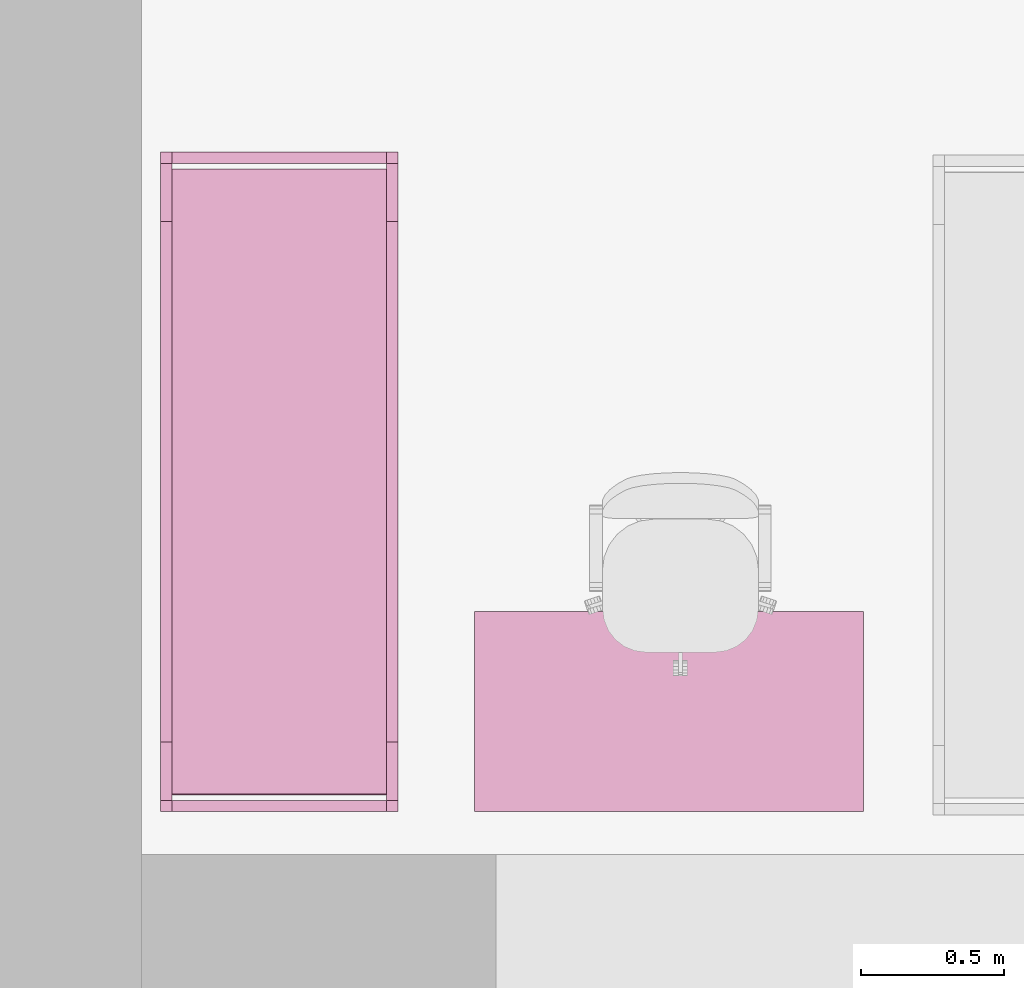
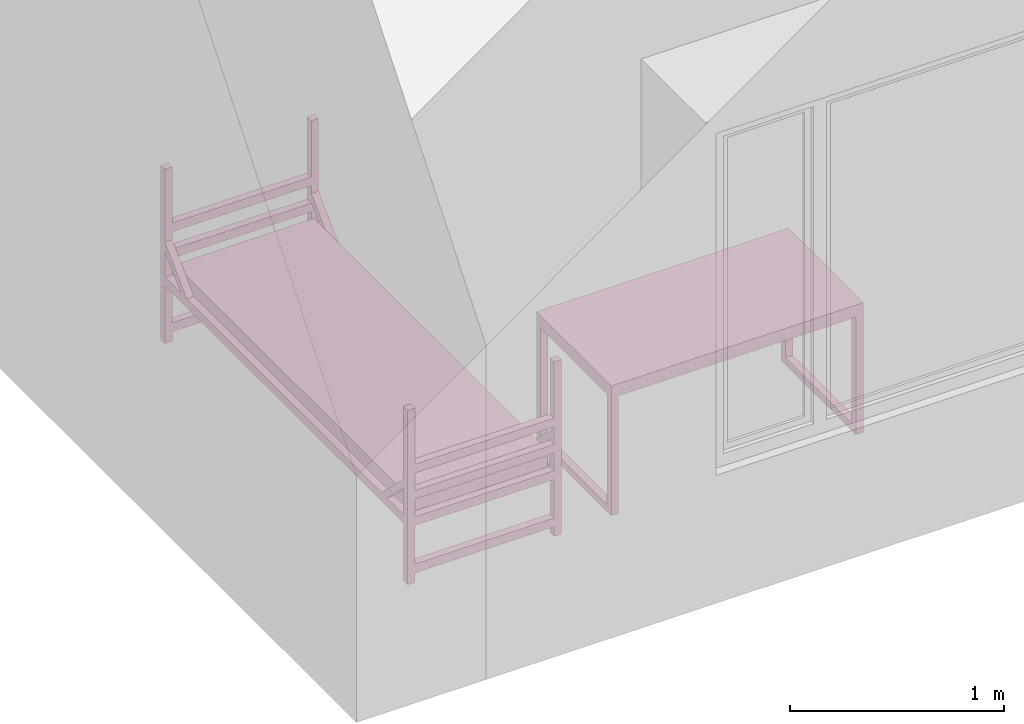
# One storey, part 21 of 48: 2 furnishings.
"""IFC2X3 building model written with IfcOpenShell, lengths in millimetres."""

from ifc_helpers import new_model, entity, si_unit, converted_unit, derived_unit, direction, frame, frame_2d, origin, place, context, subcontext, project, spatial, polyline, circle_curve, parameter, trimmed, segment, composite_curve, rectangle, outline, extrude, faceted_brep, source, transform, mapped, material, material_list, type_object, type_shapes, element, save


model = new_model("IFC2X3")

# Units and contexts
model_context = context("Model", 3, precision=0.01, world=origin(), true_north=direction((6.12303176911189e-17, 1.0)))
body_context = subcontext(model_context, "Body", "Model", "MODEL_VIEW")
ifc_project = project(units=[si_unit("LENGTHUNIT", "METRE", prefix="MILLI"), si_unit("AREAUNIT", "SQUARE_METRE"), si_unit("VOLUMEUNIT", "CUBIC_METRE"), converted_unit("PLANEANGLEUNIT", "DEGREE", entity("IfcRatioMeasure", 0.0174532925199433), si_unit("PLANEANGLEUNIT", "RADIAN"), dimensions=[0, 0, 0, 0, 0, 0, 0]), si_unit("MASSUNIT", "GRAM", prefix="KILO"), derived_unit("MASSDENSITYUNIT", [(si_unit("MASSUNIT", "GRAM", prefix="KILO"), 1), (si_unit("LENGTHUNIT", "METRE"), -3)]), si_unit("TIMEUNIT", "SECOND"), si_unit("FREQUENCYUNIT", "HERTZ"), si_unit("THERMODYNAMICTEMPERATUREUNIT", "DEGREE_CELSIUS"), derived_unit("THERMALTRANSMITTANCEUNIT", [(si_unit("MASSUNIT", "GRAM", prefix="KILO"), 1), (si_unit("THERMODYNAMICTEMPERATUREUNIT", "KELVIN"), -1), (si_unit("TIMEUNIT", "SECOND"), -3)]), derived_unit("VOLUMETRICFLOWRATEUNIT", [(si_unit("LENGTHUNIT", "METRE"), 3), (si_unit("TIMEUNIT", "SECOND"), -1)]), si_unit("ELECTRICCURRENTUNIT", "AMPERE"), si_unit("ELECTRICVOLTAGEUNIT", "VOLT"), si_unit("POWERUNIT", "WATT"), si_unit("FORCEUNIT", "NEWTON", prefix="KILO"), si_unit("ILLUMINANCEUNIT", "LUX"), si_unit("LUMINOUSFLUXUNIT", "LUMEN"), si_unit("LUMINOUSINTENSITYUNIT", "CANDELA"), derived_unit("USERDEFINED", [(si_unit("MASSUNIT", "GRAM", prefix="KILO"), -1), (si_unit("LENGTHUNIT", "METRE"), -2), (si_unit("TIMEUNIT", "SECOND"), 3), (si_unit("LUMINOUSFLUXUNIT", "LUMEN"), 1)]), derived_unit("LINEARVELOCITYUNIT", [(si_unit("LENGTHUNIT", "METRE"), 1), (si_unit("TIMEUNIT", "SECOND"), -1)]), si_unit("PRESSUREUNIT", "PASCAL"), derived_unit("USERDEFINED", [(si_unit("LENGTHUNIT", "METRE"), -2), (si_unit("MASSUNIT", "GRAM", prefix="KILO"), 1), (si_unit("TIMEUNIT", "SECOND"), -2)]), derived_unit("LINEARFORCEUNIT", [(si_unit("MASSUNIT", "GRAM", prefix="KILO"), 1), (si_unit("LENGTHUNIT", "METRE"), 1), (si_unit("TIMEUNIT", "SECOND"), -2), (si_unit("LENGTHUNIT", "METRE"), -1)]), derived_unit("PLANARFORCEUNIT", [(si_unit("MASSUNIT", "GRAM", prefix="KILO"), 1), (si_unit("LENGTHUNIT", "METRE"), 1), (si_unit("TIMEUNIT", "SECOND"), -2), (si_unit("LENGTHUNIT", "METRE"), -2)])], contexts=[model_context])

# Site, building, storey, space
site_placement = place(None, origin())
site = spatial("IfcSite", under=ifc_project, at=site_placement, Name="Default", CompositionType="ELEMENT")
building_placement = place(site_placement, origin())
building = spatial("IfcBuilding", under=site, at=building_placement, Name="SMA ARH", CompositionType="ELEMENT")
storey_placement = place(building_placement, frame((0.0, 0.0, 6600.0)))
storey = spatial("IfcBuildingStorey", under=building, at=storey_placement, Name="3 Korrus", CompositionType="ELEMENT", Elevation=6599.99999999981)
space_placement = place(storey_placement, origin())
space = spatial("IfcSpace", under=storey, at=space_placement, Name="3-15", CompositionType="ELEMENT", InteriorOrExteriorSpace="INTERNAL")

# Furnishings
ifc_material_1 = material(Name="Madrats")
furniture_type_1 = type_object("IfcFurnitureType", Name="Kasarmu voodi ühekordne 2308x830:Kasarmu voodi ühekordne 2308x830", material=ifc_material_1)
shared_shape_1 = source(origin(), body_context, "Body", "SweptSolid", [
    extrude(rectangle(XDim=39.9999999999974, YDim=750.000000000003, at=frame_2d((-1.35003119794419e-13, -2.8421709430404e-14), x_axis=(1.0, 0.0))), frame((1.68638457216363, -1226.7969571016, 55.0), z_axis=(0.0, 0.0, 1.0), x_axis=(0.0, -1.0, 0.0)), (0.0, 0.0, 1.0), 49.9999999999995),
    extrude(rectangle(XDim=39.9999999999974, YDim=750.000000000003, at=frame_2d((-1.35003119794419e-13, -2.8421709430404e-14), x_axis=(1.0, 0.0))), frame((1.68638457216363, -1226.7969571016, 325.0), z_axis=(0.0, 0.0, 1.0), x_axis=(0.0, -1.0, 0.0)), (0.0, 0.0, 1.0), 49.9999999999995),
    extrude(rectangle(XDim=39.9999999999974, YDim=750.000000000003, at=frame_2d((-1.35003119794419e-13, -2.8421709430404e-14), x_axis=(1.0, 0.0))), frame((1.68638457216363, -1226.7969571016, 475.0), z_axis=(0.0, 0.0, 1.0), x_axis=(0.0, -1.0, 0.0)), (0.0, 0.0, 1.0), 49.9999999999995),
    extrude(rectangle(XDim=39.9999999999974, YDim=750.000000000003, at=frame_2d((-1.35003119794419e-13, -2.8421709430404e-14), x_axis=(1.0, 0.0))), frame((1.68638457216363, -1226.7969571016, 625.0), z_axis=(0.0, 0.0, 1.0), x_axis=(0.0, -1.0, 0.0)), (0.0, 0.0, 1.0), 50.0000000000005),
    extrude(rectangle(XDim=39.9999999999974, YDim=750.000000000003, at=frame_2d((1.35003119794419e-13, -2.8421709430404e-14), x_axis=(1.0, 0.0))), frame((1.68638457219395, 1041.2030428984, 55.0), z_axis=(0.0, 0.0, 1.0), x_axis=(0.0, -1.0, 0.0)), (0.0, 0.0, 1.0), 50.0000000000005),
    extrude(rectangle(XDim=39.9999999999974, YDim=750.000000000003, at=frame_2d((1.35003119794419e-13, -2.8421709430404e-14), x_axis=(1.0, 0.0))), frame((1.68638457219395, 1041.2030428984, 325.0), z_axis=(0.0, 0.0, 1.0), x_axis=(0.0, -1.0, 0.0)), (0.0, 0.0, 1.0), 50.0000000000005),
    extrude(rectangle(XDim=39.9999999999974, YDim=750.000000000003, at=frame_2d((1.35003119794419e-13, -2.8421709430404e-14), x_axis=(1.0, 0.0))), frame((1.68638457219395, 1041.2030428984, 475.0), z_axis=(0.0, 0.0, 1.0), x_axis=(0.0, -1.0, 0.0)), (0.0, 0.0, 1.0), 50.0000000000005),
    extrude(rectangle(XDim=39.9999999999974, YDim=750.000000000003, at=frame_2d((1.35003119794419e-13, -2.8421709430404e-14), x_axis=(1.0, 0.0))), frame((1.68638457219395, 1041.2030428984, 625.0), z_axis=(0.0, 0.0, 1.0), x_axis=(0.0, -1.0, 0.0)), (0.0, 0.0, 1.0), 49.9999999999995),
    extrude(outline(composite_curve([segment(trimmed(circle_curve(frame_2d((1085.0, -40.0), x_axis=(1.0, 0.0)), 10.0), [parameter(270.0)], [parameter(0.0)], True, "PARAMETER"), True, "CONTINUOUS"), segment(polyline([(1095.0, -40.0), (1095.0, 40.0)]), True, "CONTINUOUS"), segment(trimmed(circle_curve(frame_2d((1085.0, 40.0), x_axis=(1.0, 0.0)), 10.0), [parameter(0.0)], [parameter(90.0000000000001)], True, "PARAMETER"), True, "CONTINUOUS"), segment(polyline([(1085.0, 50.0), (-1085.0, 50.0)]), True, "CONTINUOUS"), segment(trimmed(circle_curve(frame_2d((-1085.0, 40.0), x_axis=(1.0, 0.0)), 10.0), [parameter(90.0000000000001)], [parameter(180.0)], True, "PARAMETER"), True, "CONTINUOUS"), segment(polyline([(-1095.0, 40.0), (-1095.0, -40.0)]), True, "CONTINUOUS"), segment(trimmed(circle_curve(frame_2d((-1085.0, -40.0), x_axis=(1.0, 0.0)), 10.0), [parameter(180.0)], [parameter(270.0)], True, "PARAMETER"), True, "CONTINUOUS"), segment(polyline([(-1085.0, -50.0), (1085.0, -50.0)]), True, "CONTINUOUS")], self_intersect=False)), frame((-373.313615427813, -92.7969571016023, 405.0), z_axis=(1.0, 0.0, 0.0), x_axis=(0.0, -1.0, 0.0)), (0.0, 0.0, 1.0), 750.000000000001),
    extrude(outline(polyline([(-1114.0, -100.0), (1114.0, -100.0), (1114.0, -50.0), (961.59199141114, -50.0), (1114.0, 100.0), (1114.0, 150.0), (910.789321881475, -50.0), (-910.789321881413, -50.0), (-1114.0, 150.0), (-1114.0, 100.0), (-961.591991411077, -50.0), (-1114.0, -50.0), (-1114.0, -100.0)])), frame((-413.313615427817, -92.7969571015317, 430.0), z_axis=(1.0, 0.0, 0.0), x_axis=(0.0, 1.0, 0.0)), (0.0, 0.0, 1.0), 39.9999999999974),
    extrude(outline(polyline([(-1114.0, -100.0), (1114.0, -100.0), (1114.0, -50.0), (961.591991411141, -50.0), (1114.0, 100.0), (1114.0, 150.0), (910.789321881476, -50.0), (-910.789321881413, -50.0), (-1114.0, 150.0), (-1114.0, 100.0), (-961.591991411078, -50.0), (-1114.0, -50.0), (-1114.0, -100.0)])), frame((376.686384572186, -92.796957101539, 430.0), z_axis=(1.0, 0.0, 0.0), x_axis=(0.0, 1.0, 0.0)), (0.0, 0.0, 1.0), 39.9999999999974),
    extrude(rectangle(XDim=39.9999999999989, YDim=39.9999999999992, at=frame_2d((-6.75015598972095e-14, 0.0), x_axis=(1.0, 0.0))), frame((396.686384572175, -1226.79695710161, 0.0), z_axis=(0.0, 0.0, 1.0), x_axis=(0.0, 1.0, 0.0)), (0.0, 0.0, 1.0), 995.0),
    extrude(rectangle(XDim=39.9999999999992, YDim=39.9999999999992, at=frame_2d((-1.35003119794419e-13, 0.0), x_axis=(1.0, 0.0))), frame((396.686384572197, 1041.20304289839, 0.0), z_axis=(0.0, 0.0, 1.0), x_axis=(0.0, 1.0, 0.0)), (0.0, 0.0, 1.0), 995.0),
    extrude(rectangle(XDim=40.0000000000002, YDim=39.9999999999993, at=frame_2d((-1.35003119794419e-13, 0.0), x_axis=(1.0, 0.0))), frame((-393.313615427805, 1041.2030428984, 0.0), z_axis=(0.0, 0.0, 1.0), x_axis=(0.0, 1.0, 0.0)), (0.0, 0.0, 1.0), 995.0),
    extrude(rectangle(XDim=39.9999999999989, YDim=39.9999999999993, at=frame_2d((-6.75015598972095e-14, 0.0), x_axis=(1.0, 0.0))), frame((-393.313615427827, -1226.7969571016, 0.0), z_axis=(0.0, 0.0, 1.0), x_axis=(0.0, 1.0, 0.0)), (0.0, 0.0, 1.0), 995.0),
])
type_shapes(furniture_type_1, [shared_shape_1])
furnishing_1_placement = place(space_placement, frame((480.0, 1396.7969571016, 0.0)))
element("IfcFurnishingElement", 1, at=furnishing_1_placement, inside=space, type_object=furniture_type_1, material=ifc_material_1, Name="Kasarmu voodi ühekordne 2308x830:Kasarmu voodi ühekordne 2308x830", ObjectType="Kasarmu voodi ühekordne 2308x830:Kasarmu voodi ühekordne 2308x830", context=body_context, shape_type="MappedRepresentation", body=[
    mapped(shared_shape_1, transform((0.0, 0.0, 0.0), scale=1.0)),
])
ifc_material_2 = material(Name="<Unnamed>")
ifc_material_list = material_list([ifc_material_2, ifc_material_2])
furniture_type_2 = type_object("IfcFurnitureType", Name="kirjutuslaud 1360x700mm:kirjutuslaud 1360x700mm", material=ifc_material_list)
shared_shape_2 = source(origin(), body_context, "Body", "Brep", [
    faceted_brep([(680.0, -350.0, 720.0), (680.0, 350.0, 720.0), (680.0, 350.0, 750.0), (680.0, -350.0, 750.0), (-680.0, -350.0, 720.0), (-680.0, -350.0, 750.0), (-680.0, 350.0, 750.0), (-680.0, 350.0, 720.0)], [[[0, 1, 2, 3]], [[4, 5, 6, 7]], [[1, 0, 4, 7]], [[2, 1, 7, 6]], [[3, 2, 6, 5]], [[0, 3, 5, 4]]]),
    faceted_brep([(-640.0, -310.0, 680.0), (-640.0, 310.0, 680.0), (-640.0, 310.0, 720.0), (-640.0, -310.0, 720.0), (-680.0, -350.0, 720.0), (-680.0, 350.0, 720.0), (-680.0, 350.0, 10.0), (-680.0, -350.0, 10.0), (-680.0, 310.0, 680.0), (-680.0, -310.0, 680.0), (-680.0, -310.0, 50.0), (-680.0, 310.0, 50.0), (-640.0, -350.0, 10.0), (-640.0, -350.0, 680.0), (640.0, -350.0, 680.0), (640.0, -350.0, 10.0), (680.0, -350.0, 10.0), (680.0, -350.0, 720.0), (-640.0, 350.0, 10.0), (680.0, 350.0, 720.0), (680.0, 350.0, 10.0), (640.0, 350.0, 10.0), (640.0, 350.0, 680.0), (-640.0, 350.0, 680.0), (640.0, 310.0, 720.0), (640.0, -310.0, 720.0), (-640.0, 310.0, 50.0), (-640.0, -310.0, 50.0), (640.0, -310.0, 680.0), (640.0, 310.0, 680.0), (680.0, 310.0, 680.0), (680.0, 310.0, 50.0), (680.0, -310.0, 50.0), (680.0, -310.0, 680.0), (640.0, -310.0, 50.0), (640.0, 310.0, 50.0)], [[[0, 1, 2, 3]], [[4, 5, 6, 7], [8, 9, 10, 11]], [[4, 7, 12, 13, 14, 15, 16, 17]], [[18, 12, 7, 6]], [[6, 5, 19, 20, 21, 22, 23, 18]], [[19, 5, 4, 17], [2, 24, 25, 3]], [[26, 1, 8, 11]], [[27, 26, 11, 10]], [[0, 27, 10, 9]], [[1, 0, 9, 8]], [[14, 13, 0, 28]], [[24, 2, 1, 29]], [[3, 25, 28, 0]], [[17, 16, 20, 19], [30, 31, 32, 33]], [[21, 15, 14, 28, 34, 35, 29, 22]], [[20, 16, 15, 21]], [[31, 30, 29, 35]], [[32, 31, 35, 34]], [[33, 32, 34, 28]], [[30, 33, 28, 29]], [[29, 28, 25, 24]], [[29, 1, 23, 22]], [[12, 18, 23, 1, 26, 27, 0, 13]]]),
    faceted_brep([(-663.729456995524, -270.466136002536, 0.0), (-659.847171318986, -269.955023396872, 0.0), (-655.964885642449, -270.466136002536, 0.0), (-652.347171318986, -271.964642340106, 0.0), (-649.240569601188, -274.348421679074, 0.0), (-646.85679026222, -277.455023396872, 0.0), (-645.35828392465, -281.072737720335, 0.0), (-644.847171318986, -284.955023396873, 0.0), (-645.35828392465, -288.83730907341, 0.0), (-646.85679026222, -292.455023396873, 0.0), (-649.240569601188, -295.561625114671, 0.0), (-652.347171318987, -297.945404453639, 0.0), (-655.964885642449, -299.443910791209, 0.0), (-659.847171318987, -299.955023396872, 0.0), (-663.729456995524, -299.443910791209, 0.0), (-667.347171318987, -297.945404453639, 0.0), (-670.453773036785, -295.561625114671, 0.0), (-672.837552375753, -292.455023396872, 0.0), (-674.336058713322, -288.83730907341, 0.0), (-674.847171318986, -284.955023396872, 0.0), (-674.336058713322, -281.072737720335, 0.0), (-672.837552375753, -277.455023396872, 0.0), (-670.453773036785, -274.348421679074, 0.0), (-667.347171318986, -271.964642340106, 0.0), (-655.964885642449, -299.443910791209, 10.0), (-652.347171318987, -297.945404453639, 10.0), (-649.240569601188, -295.561625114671, 10.0), (-646.85679026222, -292.455023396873, 10.0), (-645.35828392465, -288.83730907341, 10.0), (-644.847171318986, -284.955023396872, 10.0), (-645.35828392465, -281.072737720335, 10.0), (-646.85679026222, -277.455023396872, 10.0), (-649.240569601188, -274.348421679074, 10.0), (-652.347171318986, -271.964642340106, 10.0), (-655.964885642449, -270.466136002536, 10.0), (-659.847171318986, -269.955023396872, 10.0), (-663.729456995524, -270.466136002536, 10.0), (-667.347171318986, -271.964642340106, 10.0), (-670.453773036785, -274.348421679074, 10.0), (-672.837552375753, -277.455023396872, 10.0), (-674.336058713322, -281.072737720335, 10.0), (-674.847171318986, -284.955023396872, 10.0), (-674.336058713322, -288.83730907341, 10.0), (-672.837552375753, -292.455023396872, 10.0), (-670.453773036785, -295.561625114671, 10.0), (-667.347171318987, -297.945404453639, 10.0), (-663.729456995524, -299.443910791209, 10.0), (-659.847171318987, -299.955023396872, 10.0)], [[[0, 1, 2, 3, 4, 5, 6, 7, 8, 9, 10, 11, 12, 13, 14, 15, 16, 17, 18, 19, 20, 21, 22, 23]], [[24, 25, 26, 27, 28, 29, 30, 31, 32, 33, 34, 35, 36, 37, 38, 39, 40, 41, 42, 43, 44, 45, 46, 47]], [[18, 42, 41, 19]], [[17, 43, 42, 18]], [[45, 44, 16, 15]], [[17, 16, 44, 43]], [[46, 45, 15, 14]], [[47, 46, 14, 13]], [[12, 24, 47, 13]], [[11, 25, 24, 12]], [[27, 26, 10, 9]], [[11, 10, 26, 25]], [[28, 27, 9, 8]], [[29, 28, 8, 7]], [[6, 30, 29, 7]], [[5, 31, 30, 6]], [[33, 32, 4, 3]], [[5, 4, 32, 31]], [[34, 33, 3, 2]], [[35, 34, 2, 1]], [[0, 36, 35, 1]], [[23, 37, 36, 0]], [[39, 38, 22, 21]], [[23, 22, 38, 37]], [[40, 39, 21, 20]], [[41, 40, 20, 19]]]),
    faceted_brep([(-655.964885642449, 270.466136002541, 10.0), (-652.347171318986, 271.964642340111, 10.0), (-649.240569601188, 274.348421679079, 10.0), (-646.85679026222, 277.455023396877, 10.0), (-645.35828392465, 281.07273772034, 10.0), (-644.847171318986, 284.955023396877, 10.0), (-645.35828392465, 288.837309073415, 10.0), (-646.85679026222, 292.455023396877, 10.0), (-649.240569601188, 295.561625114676, 10.0), (-652.347171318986, 297.945404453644, 10.0), (-655.964885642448, 299.443910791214, 10.0), (-659.847171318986, 299.955023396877, 10.0), (-663.729456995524, 299.443910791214, 10.0), (-667.347171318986, 297.945404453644, 10.0), (-670.453773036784, 295.561625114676, 10.0), (-672.837552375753, 292.455023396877, 10.0), (-674.336058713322, 288.837309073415, 10.0), (-674.847171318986, 284.955023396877, 10.0), (-674.336058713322, 281.07273772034, 10.0), (-672.837552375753, 277.455023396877, 10.0), (-670.453773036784, 274.348421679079, 10.0), (-667.347171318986, 271.964642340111, 10.0), (-663.729456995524, 270.466136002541, 10.0), (-659.847171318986, 269.955023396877, 10.0), (-655.964885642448, 299.443910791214, 0.0), (-652.347171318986, 297.945404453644, 0.0), (-649.240569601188, 295.561625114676, 0.0), (-646.85679026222, 292.455023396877, 0.0), (-645.35828392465, 288.837309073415, 0.0), (-644.847171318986, 284.955023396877, 0.0), (-645.35828392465, 281.07273772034, 0.0), (-646.85679026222, 277.455023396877, 0.0), (-649.240569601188, 274.348421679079, 0.0), (-652.347171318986, 271.964642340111, 0.0), (-655.964885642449, 270.466136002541, 0.0), (-659.847171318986, 269.955023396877, 0.0), (-663.729456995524, 270.466136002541, 0.0), (-667.347171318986, 271.964642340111, 0.0), (-670.453773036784, 274.348421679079, 0.0), (-672.837552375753, 277.455023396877, 0.0), (-674.336058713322, 281.07273772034, 0.0), (-674.847171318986, 284.955023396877, 0.0), (-674.336058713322, 288.837309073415, 0.0), (-672.837552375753, 292.455023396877, 0.0), (-670.453773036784, 295.561625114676, 0.0), (-667.347171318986, 297.945404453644, 0.0), (-663.729456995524, 299.443910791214, 0.0), (-659.847171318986, 299.955023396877, 0.0)], [[[0, 1, 2, 3, 4, 5, 6, 7, 8, 9, 10, 11, 12, 13, 14, 15, 16, 17, 18, 19, 20, 21, 22, 23]], [[24, 25, 26, 27, 28, 29, 30, 31, 32, 33, 34, 35, 36, 37, 38, 39, 40, 41, 42, 43, 44, 45, 46, 47]], [[40, 18, 17, 41]], [[39, 19, 18, 40]], [[21, 20, 38, 37]], [[39, 38, 20, 19]], [[22, 21, 37, 36]], [[23, 22, 36, 35]], [[34, 0, 23, 35]], [[33, 1, 0, 34]], [[3, 2, 32, 31]], [[33, 32, 2, 1]], [[4, 3, 31, 30]], [[5, 4, 30, 29]], [[28, 6, 5, 29]], [[27, 7, 6, 28]], [[9, 8, 26, 25]], [[27, 26, 8, 7]], [[10, 9, 25, 24]], [[11, 10, 24, 47]], [[46, 12, 11, 47]], [[45, 13, 12, 46]], [[15, 14, 44, 43]], [[45, 44, 14, 13]], [[16, 15, 43, 42]], [[17, 16, 42, 41]]]),
    faceted_brep([(656.270543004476, -270.466136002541, 0.0), (660.152828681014, -269.955023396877, 0.0), (664.035114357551, -270.466136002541, 0.0), (667.652828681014, -271.96464234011, 0.0), (670.759430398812, -274.348421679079, 0.0), (673.14320973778, -277.455023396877, 0.0), (674.64171607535, -281.072737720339, 0.0), (675.152828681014, -284.955023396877, 0.0), (674.64171607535, -288.837309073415, 0.0), (673.14320973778, -292.455023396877, 0.0), (670.759430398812, -295.561625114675, 0.0), (667.652828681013, -297.945404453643, 0.0), (664.035114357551, -299.443910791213, 0.0), (660.152828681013, -299.955023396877, 0.0), (656.270543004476, -299.443910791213, 0.0), (652.652828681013, -297.945404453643, 0.0), (649.546226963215, -295.561625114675, 0.0), (647.162447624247, -292.455023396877, 0.0), (645.663941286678, -288.837309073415, 0.0), (645.152828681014, -284.955023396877, 0.0), (645.663941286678, -281.072737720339, 0.0), (647.162447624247, -277.455023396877, 0.0), (649.546226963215, -274.348421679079, 0.0), (652.652828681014, -271.96464234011, 0.0), (664.035114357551, -299.443910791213, 10.0), (667.652828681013, -297.945404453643, 10.0), (670.759430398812, -295.561625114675, 10.0), (673.14320973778, -292.455023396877, 10.0), (674.64171607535, -288.837309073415, 10.0), (675.152828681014, -284.955023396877, 10.0), (674.64171607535, -281.072737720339, 10.0), (673.14320973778, -277.455023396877, 10.0), (670.759430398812, -274.348421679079, 10.0), (667.652828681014, -271.96464234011, 10.0), (664.035114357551, -270.466136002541, 10.0), (660.152828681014, -269.955023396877, 10.0), (656.270543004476, -270.466136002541, 10.0), (652.652828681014, -271.96464234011, 10.0), (649.546226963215, -274.348421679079, 10.0), (647.162447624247, -277.455023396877, 10.0), (645.663941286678, -281.072737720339, 10.0), (645.152828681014, -284.955023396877, 10.0), (645.663941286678, -288.837309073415, 10.0), (647.162447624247, -292.455023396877, 10.0), (649.546226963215, -295.561625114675, 10.0), (652.652828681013, -297.945404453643, 10.0), (656.270543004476, -299.443910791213, 10.0), (660.152828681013, -299.955023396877, 10.0)], [[[0, 1, 2, 3, 4, 5, 6, 7, 8, 9, 10, 11, 12, 13, 14, 15, 16, 17, 18, 19, 20, 21, 22, 23]], [[24, 25, 26, 27, 28, 29, 30, 31, 32, 33, 34, 35, 36, 37, 38, 39, 40, 41, 42, 43, 44, 45, 46, 47]], [[18, 42, 41, 19]], [[17, 43, 42, 18]], [[45, 44, 16, 15]], [[17, 16, 44, 43]], [[46, 45, 15, 14]], [[47, 46, 14, 13]], [[12, 24, 47, 13]], [[11, 25, 24, 12]], [[27, 26, 10, 9]], [[11, 10, 26, 25]], [[28, 27, 9, 8]], [[29, 28, 8, 7]], [[6, 30, 29, 7]], [[5, 31, 30, 6]], [[33, 32, 4, 3]], [[5, 4, 32, 31]], [[34, 33, 3, 2]], [[35, 34, 2, 1]], [[0, 36, 35, 1]], [[23, 37, 36, 0]], [[39, 38, 22, 21]], [[23, 22, 38, 37]], [[40, 39, 21, 20]], [[41, 40, 20, 19]]]),
    faceted_brep([(664.035114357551, 270.466136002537, 10.0), (667.652828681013, 271.964642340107, 10.0), (670.759430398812, 274.348421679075, 10.0), (673.14320973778, 277.455023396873, 10.0), (674.64171607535, 281.072737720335, 10.0), (675.152828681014, 284.955023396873, 10.0), (674.64171607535, 288.837309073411, 10.0), (673.14320973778, 292.455023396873, 10.0), (670.759430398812, 295.561625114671, 10.0), (667.652828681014, 297.94540445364, 10.0), (664.035114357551, 299.443910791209, 10.0), (660.152828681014, 299.955023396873, 10.0), (656.270543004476, 299.443910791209, 10.0), (652.652828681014, 297.94540445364, 10.0), (649.546226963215, 295.561625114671, 10.0), (647.162447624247, 292.455023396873, 10.0), (645.663941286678, 288.837309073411, 10.0), (645.152828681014, 284.955023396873, 10.0), (645.663941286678, 281.072737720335, 10.0), (647.162447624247, 277.455023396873, 10.0), (649.546226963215, 274.348421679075, 10.0), (652.652828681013, 271.964642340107, 10.0), (656.270543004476, 270.466136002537, 10.0), (660.152828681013, 269.955023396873, 10.0), (664.035114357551, 299.443910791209, 0.0), (667.652828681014, 297.94540445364, 0.0), (670.759430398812, 295.561625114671, 0.0), (673.14320973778, 292.455023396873, 0.0), (674.64171607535, 288.837309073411, 0.0), (675.152828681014, 284.955023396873, 0.0), (674.64171607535, 281.072737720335, 0.0), (673.14320973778, 277.455023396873, 0.0), (670.759430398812, 274.348421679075, 0.0), (667.652828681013, 271.964642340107, 0.0), (664.035114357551, 270.466136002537, 0.0), (660.152828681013, 269.955023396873, 0.0), (656.270543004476, 270.466136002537, 0.0), (652.652828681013, 271.964642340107, 0.0), (649.546226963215, 274.348421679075, 0.0), (647.162447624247, 277.455023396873, 0.0), (645.663941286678, 281.072737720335, 0.0), (645.152828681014, 284.955023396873, 0.0), (645.663941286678, 288.837309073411, 0.0), (647.162447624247, 292.455023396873, 0.0), (649.546226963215, 295.561625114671, 0.0), (652.652828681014, 297.94540445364, 0.0), (656.270543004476, 299.443910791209, 0.0), (660.152828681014, 299.955023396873, 0.0)], [[[0, 1, 2, 3, 4, 5, 6, 7, 8, 9, 10, 11, 12, 13, 14, 15, 16, 17, 18, 19, 20, 21, 22, 23]], [[24, 25, 26, 27, 28, 29, 30, 31, 32, 33, 34, 35, 36, 37, 38, 39, 40, 41, 42, 43, 44, 45, 46, 47]], [[40, 18, 17, 41]], [[39, 19, 18, 40]], [[21, 20, 38, 37]], [[39, 38, 20, 19]], [[22, 21, 37, 36]], [[23, 22, 36, 35]], [[34, 0, 23, 35]], [[33, 1, 0, 34]], [[3, 2, 32, 31]], [[33, 32, 2, 1]], [[4, 3, 31, 30]], [[5, 4, 30, 29]], [[28, 6, 5, 29]], [[27, 7, 6, 28]], [[9, 8, 26, 25]], [[27, 26, 8, 7]], [[10, 9, 25, 24]], [[11, 10, 24, 47]], [[46, 12, 11, 47]], [[45, 13, 12, 46]], [[15, 14, 44, 43]], [[45, 44, 14, 13]], [[16, 15, 43, 42]], [[17, 16, 42, 41]]]),
])
type_shapes(furniture_type_2, [shared_shape_2])
furnishing_2_placement = place(space_placement, frame((1845.50000000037, 500.0, 0.0)))
element("IfcFurnishingElement", 2, at=furnishing_2_placement, inside=space, type_object=furniture_type_2, Name="kirjutuslaud 1360x700mm:kirjutuslaud 1360x700mm", ObjectType="kirjutuslaud 1360x700mm:kirjutuslaud 1360x700mm", context=body_context, shape_type="MappedRepresentation", body=[
    mapped(shared_shape_2, transform((0.0, 0.0, 0.0), scale=1.0)),
])

save(model, "model.ifc")
